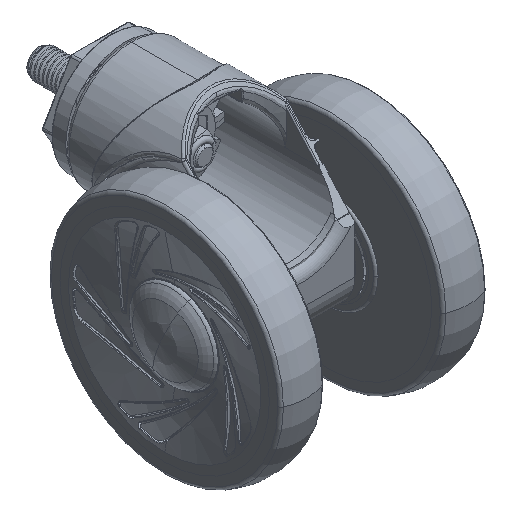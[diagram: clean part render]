
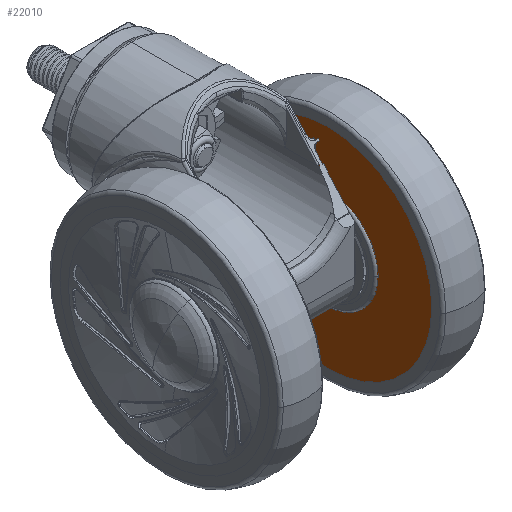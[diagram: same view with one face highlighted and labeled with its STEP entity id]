
A CAD part, isometric view. The second image highlights one B-rep face of the part: STEP entity #22010.
In plain terms, the highlighted planar face has unit normal (-1, 0, 0).
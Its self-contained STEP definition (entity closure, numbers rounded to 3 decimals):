
#17537=CARTESIAN_POINT('',(24.75,0.,0.));
#17538=DIRECTION('',(-1.,0.,0.));
#17539=DIRECTION('',(0.,-0.907,0.422));
#17540=AXIS2_PLACEMENT_3D('',#17537,#17538,#17539);
#17542=DIRECTION('',(0.,-0.997,0.075));
#17543=VECTOR('',#17542,1.153);
#17544=CARTESIAN_POINT('',(24.75,-13.915,9.766));
#17545=LINE('',#17544,#17543);
#17546=CARTESIAN_POINT('',(24.75,0.,0.));
#17547=DIRECTION('',(-1.,0.,0.));
#17548=DIRECTION('',(0.,-0.837,0.547));
#17549=AXIS2_PLACEMENT_3D('',#17546,#17547,#17548);
#17551=DIRECTION('',(0.,-0.434,-0.901));
#17552=VECTOR('',#17551,1.153);
#17553=CARTESIAN_POINT('',(24.75,-1.,17.972));
#17554=LINE('',#17553,#17552);
#17555=CARTESIAN_POINT('',(24.75,0.,0.));
#17556=DIRECTION('',(-1.,0.,0.));
#17557=DIRECTION('',(0.,-0.088,0.996));
#17558=AXIS2_PLACEMENT_3D('',#17555,#17556,#17557);
#17560=DIRECTION('',(0.,-0.434,0.901));
#17561=VECTOR('',#17560,1.153);
#17562=CARTESIAN_POINT('',(24.75,1.5,16.934));
#17563=LINE('',#17562,#17561);
#17564=CARTESIAN_POINT('',(24.75,0.,0.));
#17565=DIRECTION('',(-1.,0.,0.));
#17566=DIRECTION('',(0.,0.056,0.998));
#17567=AXIS2_PLACEMENT_3D('',#17564,#17565,#17566);
#17569=DIRECTION('',(0.,-0.997,-0.075));
#17570=VECTOR('',#17569,1.153);
#17571=CARTESIAN_POINT('',(24.75,15.064,9.852));
#17572=LINE('',#17571,#17570);
#17573=CARTESIAN_POINT('',(24.75,0.,0.));
#17574=DIRECTION('',(-1.,0.,0.));
#17575=DIRECTION('',(0.,0.819,0.574));
#17576=AXIS2_PLACEMENT_3D('',#17573,#17574,#17575);
#17578=DIRECTION('',(0.,0.563,0.826));
#17579=VECTOR('',#17578,1.153);
#17580=CARTESIAN_POINT('',(24.75,15.415,7.168));
#17581=LINE('',#17580,#17579);
#17582=CARTESIAN_POINT('',(24.75,0.,0.));
#17583=DIRECTION('',(-1.,0.,0.));
#17584=DIRECTION('',(0.,0.892,0.451));
#17585=AXIS2_PLACEMENT_3D('',#17582,#17583,#17584);
#17587=DIRECTION('',(0.,-0.563,0.826));
#17588=VECTOR('',#17587,1.153);
#17589=CARTESIAN_POINT('',(24.75,16.064,-8.12));
#17590=LINE('',#17589,#17588);
#17591=CARTESIAN_POINT('',(24.75,0.,0.));
#17592=DIRECTION('',(-1.,0.,0.));
#17593=DIRECTION('',(0.,0.907,-0.422));
#17594=AXIS2_PLACEMENT_3D('',#17591,#17592,#17593);
#17596=DIRECTION('',(0.,0.997,-0.075));
#17597=VECTOR('',#17596,1.153);
#17598=CARTESIAN_POINT('',(24.75,13.915,-9.766));
#17599=LINE('',#17598,#17597);
#17600=CARTESIAN_POINT('',(24.75,0.,0.));
#17601=DIRECTION('',(-1.,0.,0.));
#17602=DIRECTION('',(0.,0.837,-0.547));
#17603=AXIS2_PLACEMENT_3D('',#17600,#17601,#17602);
#17605=DIRECTION('',(0.,0.434,0.901));
#17606=VECTOR('',#17605,1.153);
#17607=CARTESIAN_POINT('',(24.75,1.,-17.972));
#17608=LINE('',#17607,#17606);
#17609=CARTESIAN_POINT('',(24.75,0.,0.));
#17610=DIRECTION('',(-1.,0.,0.));
#17611=DIRECTION('',(0.,0.088,-0.996));
#17612=AXIS2_PLACEMENT_3D('',#17609,#17610,#17611);
#17614=DIRECTION('',(0.,0.434,-0.901));
#17615=VECTOR('',#17614,1.153);
#17616=CARTESIAN_POINT('',(24.75,-1.5,-16.934));
#17617=LINE('',#17616,#17615);
#17618=CARTESIAN_POINT('',(24.75,0.,0.));
#17619=DIRECTION('',(-1.,0.,0.));
#17620=DIRECTION('',(0.,-0.056,-0.998));
#17621=AXIS2_PLACEMENT_3D('',#17618,#17619,#17620);
#17623=DIRECTION('',(0.,0.997,0.075));
#17624=VECTOR('',#17623,1.153);
#17625=CARTESIAN_POINT('',(24.75,-15.064,-9.852));
#17626=LINE('',#17625,#17624);
#17627=CARTESIAN_POINT('',(24.75,0.,0.));
#17628=DIRECTION('',(-1.,0.,0.));
#17629=DIRECTION('',(0.,-0.819,-0.574));
#17630=AXIS2_PLACEMENT_3D('',#17627,#17628,#17629);
#17632=DIRECTION('',(0.,-0.563,-0.826));
#17633=VECTOR('',#17632,1.153);
#17634=CARTESIAN_POINT('',(24.75,-15.415,-7.168));
#17635=LINE('',#17634,#17633);
#17636=CARTESIAN_POINT('',(24.75,0.,0.));
#17637=DIRECTION('',(-1.,0.,0.));
#17638=DIRECTION('',(0.,-0.892,-0.451));
#17639=AXIS2_PLACEMENT_3D('',#17636,#17637,#17638);
#17641=DIRECTION('',(0.,0.563,-0.826));
#17642=VECTOR('',#17641,1.153);
#17643=CARTESIAN_POINT('',(24.75,-16.064,8.12));
#17644=LINE('',#17643,#17642);
#17645=CARTESIAN_POINT('',(24.75,0.,0.));
#17646=DIRECTION('',(1.,0.,0.));
#17647=DIRECTION('',(0.,1.,0.));
#17648=AXIS2_PLACEMENT_3D('',#17645,#17646,#17647);
#17650=CARTESIAN_POINT('',(24.75,0.,0.));
#17651=DIRECTION('',(1.,0.,0.));
#17652=DIRECTION('',(0.,-1.,0.));
#17653=AXIS2_PLACEMENT_3D('',#17650,#17651,#17652);
#21456=CARTESIAN_POINT('',(24.75,-43.5,0.));
#21457=CARTESIAN_POINT('',(24.75,43.5,0.));
#21458=VERTEX_POINT('',#21456);
#21459=VERTEX_POINT('',#21457);
#21876=CARTESIAN_POINT('',(24.75,-15.415,7.168));
#21877=CARTESIAN_POINT('',(24.75,-13.915,9.766));
#21878=VERTEX_POINT('',#21876);
#21879=VERTEX_POINT('',#21877);
#21880=CARTESIAN_POINT('',(24.75,1.5,16.934));
#21881=CARTESIAN_POINT('',(24.75,-1.5,16.934));
#21882=VERTEX_POINT('',#21880);
#21883=VERTEX_POINT('',#21881);
#21884=CARTESIAN_POINT('',(24.75,13.915,9.766));
#21885=CARTESIAN_POINT('',(24.75,15.415,7.168));
#21886=VERTEX_POINT('',#21884);
#21887=VERTEX_POINT('',#21885);
#21888=CARTESIAN_POINT('',(24.75,15.415,-7.168));
#21889=CARTESIAN_POINT('',(24.75,13.915,-9.766));
#21890=VERTEX_POINT('',#21888);
#21891=VERTEX_POINT('',#21889);
#21892=CARTESIAN_POINT('',(24.75,-1.5,-16.934));
#21893=CARTESIAN_POINT('',(24.75,1.5,-16.934));
#21894=VERTEX_POINT('',#21892);
#21895=VERTEX_POINT('',#21893);
#21896=CARTESIAN_POINT('',(24.75,-13.915,-9.766));
#21897=CARTESIAN_POINT('',(24.75,-15.415,-7.168));
#21898=VERTEX_POINT('',#21896);
#21899=VERTEX_POINT('',#21897);
#21900=CARTESIAN_POINT('',(24.75,-1.,-17.972));
#21901=CARTESIAN_POINT('',(24.75,-15.064,-9.852));
#21902=VERTEX_POINT('',#21900);
#21903=VERTEX_POINT('',#21901);
#21904=CARTESIAN_POINT('',(24.75,-16.064,-8.12));
#21905=CARTESIAN_POINT('',(24.75,-16.064,8.12));
#21906=VERTEX_POINT('',#21904);
#21907=VERTEX_POINT('',#21905);
#21908=CARTESIAN_POINT('',(24.75,-15.064,9.852));
#21909=CARTESIAN_POINT('',(24.75,-1.,17.972));
#21910=VERTEX_POINT('',#21908);
#21911=VERTEX_POINT('',#21909);
#21912=CARTESIAN_POINT('',(24.75,1.,17.972));
#21913=CARTESIAN_POINT('',(24.75,15.064,9.852));
#21914=VERTEX_POINT('',#21912);
#21915=VERTEX_POINT('',#21913);
#21916=CARTESIAN_POINT('',(24.75,16.064,8.12));
#21917=CARTESIAN_POINT('',(24.75,16.064,-8.12));
#21918=VERTEX_POINT('',#21916);
#21919=VERTEX_POINT('',#21917);
#21920=CARTESIAN_POINT('',(24.75,15.064,-9.852));
#21921=CARTESIAN_POINT('',(24.75,1.,-17.972));
#21922=VERTEX_POINT('',#21920);
#21923=VERTEX_POINT('',#21921);
#21949=CARTESIAN_POINT('',(24.75,0.,0.));
#21950=DIRECTION('',(-1.,0.,0.));
#21951=DIRECTION('',(0.,1.,0.));
#21952=AXIS2_PLACEMENT_3D('',#21949,#21950,#21951);
#21953=PLANE('',#21952);
#21955=ORIENTED_EDGE('',*,*,#21954,.T.);
#21957=ORIENTED_EDGE('',*,*,#21956,.T.);
#21958=EDGE_LOOP('',(#21955,#21957));
#21959=FACE_OUTER_BOUND('',#21958,.F.);
#21961=ORIENTED_EDGE('',*,*,#21960,.T.);
#21963=ORIENTED_EDGE('',*,*,#21962,.T.);
#21965=ORIENTED_EDGE('',*,*,#21964,.T.);
#21967=ORIENTED_EDGE('',*,*,#21966,.T.);
#21969=ORIENTED_EDGE('',*,*,#21968,.T.);
#21971=ORIENTED_EDGE('',*,*,#21970,.T.);
#21973=ORIENTED_EDGE('',*,*,#21972,.T.);
#21975=ORIENTED_EDGE('',*,*,#21974,.T.);
#21977=ORIENTED_EDGE('',*,*,#21976,.T.);
#21979=ORIENTED_EDGE('',*,*,#21978,.T.);
#21981=ORIENTED_EDGE('',*,*,#21980,.T.);
#21983=ORIENTED_EDGE('',*,*,#21982,.T.);
#21985=ORIENTED_EDGE('',*,*,#21984,.T.);
#21987=ORIENTED_EDGE('',*,*,#21986,.T.);
#21989=ORIENTED_EDGE('',*,*,#21988,.T.);
#21991=ORIENTED_EDGE('',*,*,#21990,.T.);
#21993=ORIENTED_EDGE('',*,*,#21992,.T.);
#21995=ORIENTED_EDGE('',*,*,#21994,.T.);
#21997=ORIENTED_EDGE('',*,*,#21996,.T.);
#21999=ORIENTED_EDGE('',*,*,#21998,.T.);
#22001=ORIENTED_EDGE('',*,*,#22000,.T.);
#22003=ORIENTED_EDGE('',*,*,#22002,.T.);
#22005=ORIENTED_EDGE('',*,*,#22004,.T.);
#22007=ORIENTED_EDGE('',*,*,#22006,.T.);
#22008=EDGE_LOOP('',(#21961,#21963,#21965,#21967,#21969,#21971,#21973,#21975,
#21977,#21979,#21981,#21983,#21985,#21987,#21989,#21991,#21993,#21995,#21997,
#21999,#22001,#22003,#22005,#22007));
#22009=FACE_BOUND('',#22008,.F.);
#17541=CIRCLE('',#17540,17.);
#17550=CIRCLE('',#17549,18.);
#17559=CIRCLE('',#17558,17.);
#17568=CIRCLE('',#17567,18.);
#17577=CIRCLE('',#17576,17.);
#17586=CIRCLE('',#17585,18.);
#17595=CIRCLE('',#17594,17.);
#17604=CIRCLE('',#17603,18.);
#17613=CIRCLE('',#17612,17.);
#17622=CIRCLE('',#17621,18.);
#17631=CIRCLE('',#17630,17.);
#17640=CIRCLE('',#17639,18.);
#17649=CIRCLE('',#17648,43.5);
#17654=CIRCLE('',#17653,43.5);
#21954=EDGE_CURVE('',#21459,#21458,#17649,.T.);
#21956=EDGE_CURVE('',#21458,#21459,#17654,.T.);
#21960=EDGE_CURVE('',#21878,#21879,#17541,.T.);
#21962=EDGE_CURVE('',#21879,#21910,#17545,.T.);
#21964=EDGE_CURVE('',#21910,#21911,#17550,.T.);
#21966=EDGE_CURVE('',#21911,#21883,#17554,.T.);
#21968=EDGE_CURVE('',#21883,#21882,#17559,.T.);
#21970=EDGE_CURVE('',#21882,#21914,#17563,.T.);
#21972=EDGE_CURVE('',#21914,#21915,#17568,.T.);
#21974=EDGE_CURVE('',#21915,#21886,#17572,.T.);
#21976=EDGE_CURVE('',#21886,#21887,#17577,.T.);
#21978=EDGE_CURVE('',#21887,#21918,#17581,.T.);
#21980=EDGE_CURVE('',#21918,#21919,#17586,.T.);
#21982=EDGE_CURVE('',#21919,#21890,#17590,.T.);
#21984=EDGE_CURVE('',#21890,#21891,#17595,.T.);
#21986=EDGE_CURVE('',#21891,#21922,#17599,.T.);
#21988=EDGE_CURVE('',#21922,#21923,#17604,.T.);
#21990=EDGE_CURVE('',#21923,#21895,#17608,.T.);
#21992=EDGE_CURVE('',#21895,#21894,#17613,.T.);
#21994=EDGE_CURVE('',#21894,#21902,#17617,.T.);
#21996=EDGE_CURVE('',#21902,#21903,#17622,.T.);
#21998=EDGE_CURVE('',#21903,#21898,#17626,.T.);
#22000=EDGE_CURVE('',#21898,#21899,#17631,.T.);
#22002=EDGE_CURVE('',#21899,#21906,#17635,.T.);
#22004=EDGE_CURVE('',#21906,#21907,#17640,.T.);
#22006=EDGE_CURVE('',#21907,#21878,#17644,.T.);
#22010=ADVANCED_FACE('',(#21959,#22009),#21953,.T.);
